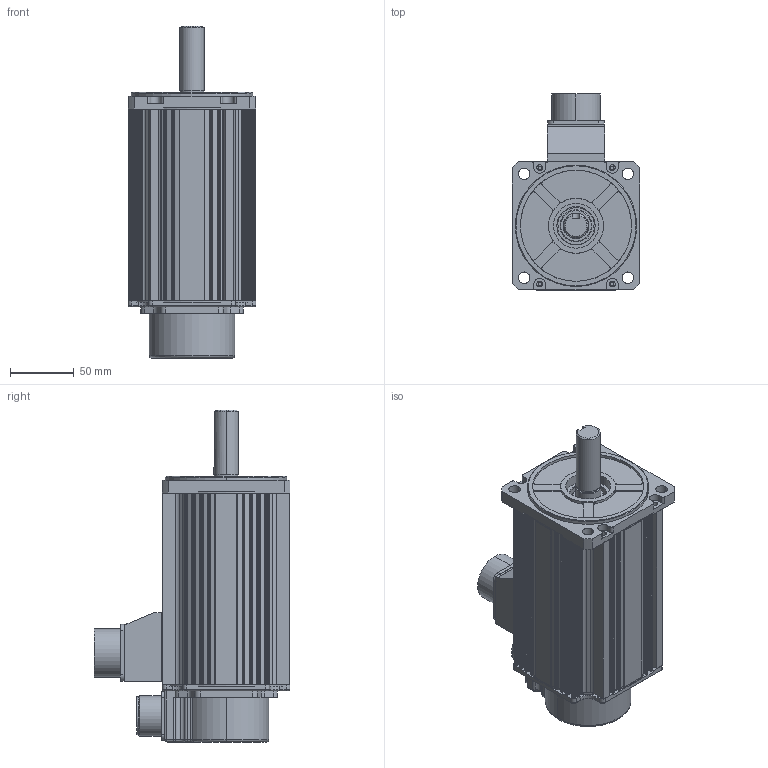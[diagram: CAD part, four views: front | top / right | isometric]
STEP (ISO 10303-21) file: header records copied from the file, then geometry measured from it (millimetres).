
FILE_DESCRIPTION (( 'STEP AP203' ), '1' );
FILE_NAME ('KANS-20DW1N2.STEP', '2024-01-08T00:02:15', ( '' ), ( '' ), 'SwSTEP 2.0', 'SolidWorks 2023', '' );
FILE_SCHEMA (( 'CONFIG_CONTROL_DESIGN' ));
Length unit declared in the file: millimetre
Products named in the file (9): 10060022(ENCODER COVER,□100.□120,MS20-29P,2of2)_표준; KANS-20DW1N2; 10060021(FLANGE); CONNECTOR(24-10P)_표준; 10050908(CONNECTOR BOX,MS22_24); SHAFT,Ø19x55,Key_표준; FRAME(□100,150mm); 3102A 20-29P; 10060019(BRACKET)
Assembly tree (8 placements, depth 2):
  KANS-20DW1N2
    FRAME(□100,150mm)
    10060019(BRACKET)
    10060021(FLANGE)
    SHAFT,Ø19x55,Key_표준
    CONNECTOR(24-10P)_표준
    3102A 20-29P
    10060022(ENCODER COVER,□100.□120,MS20-29P,2of2)_표준
    10050908(CONNECTOR BOX,MS22_24)
Bounding box: 100 x 153.42 x 259.9 mm (x, y, z)
Volume: 463919.4 mm3; surface area: 268157.8 mm2
Topology: 8 solids, 8 shells, 1616 faces, 4505 edges, 2947 vertices
Faces by surface type: plane 784, cylinder 703, cone 58, bspline 37, torus 32, sphere 2
Entity records: 54429 total; most frequent: CARTESIAN_POINT 10983, DIRECTION 9081, ORIENTED_EDGE 8930, EDGE_CURVE 4465, AXIS2_PLACEMENT_3D 3163, VERTEX_POINT 2947, LINE 2755, VECTOR 2755
